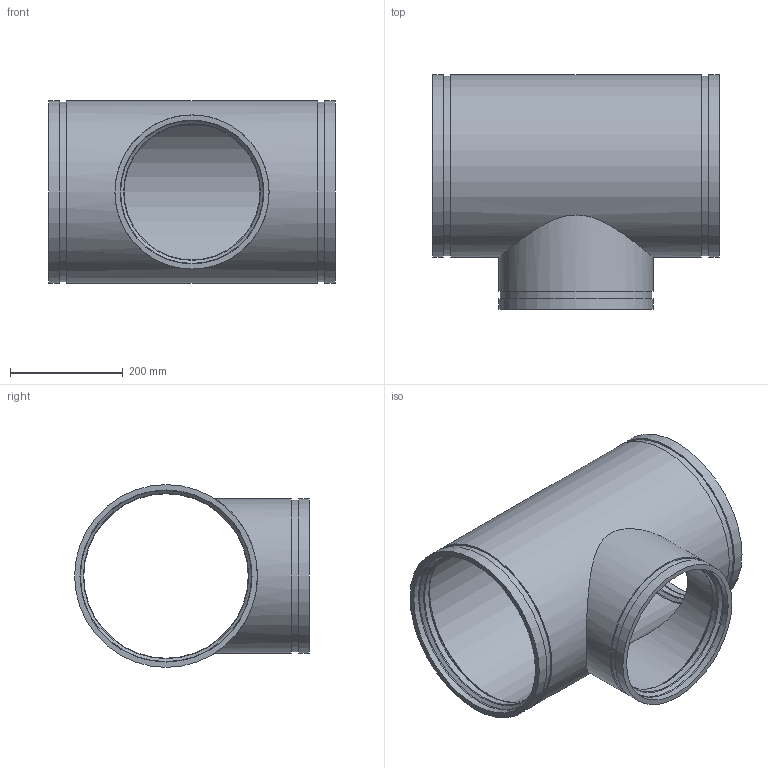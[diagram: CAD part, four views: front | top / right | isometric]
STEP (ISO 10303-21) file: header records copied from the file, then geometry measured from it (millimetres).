
FILE_DESCRIPTION(/* description */ ('VIC REDUCING TEE No 425H-SS','CAx-IF Rec.Pracs.---Representation and Presentation of Product Manufacturing Information (PMI)---4.0---2014-10-13'),/* implementation_level */ '2;1');
FILE_NAME(/* name */ 'C:\Users\kkamble\AppData\Roaming\Autodesk\ApplicationPlugins\Back Up\Victaulic_SS-OGS_Tee Reducing_Sched 40S_No 425H SS (OGS)\Victaulic_SS-OGS_Tee Reducing_Sched 40S_No 425H SS (OGS)_12.0x10.0 (300x250).stp',/* time_stamp */ '2020-08-27T17:20:41+06:00',/* author */ ('CORINNE GRAY'),/* organization */ ('Victaulic'),/* preprocessor_version */ 'ST-DEVELOPER v17.2',/* originating_system */ 'Autodesk Inventor 2019',/* authorisation */ '');
FILE_SCHEMA (('AP242_MANAGED_MODEL_BASED_3D_ENGINEERING_MIM_LF { 1 0 10303 442 1 1 4 }'));
Length unit declared in the file: inch
Products named in the file (1): 425H SS-12.0x10.0
Bounding box: 508 x 415.93 x 323.85 mm (x, y, z)
Volume: 5437428.9 mm3; surface area: 1148367.1 mm2
Topology: 1 solids, 1 shells, 43 faces, 134 edges, 100 vertices
Faces by surface type: cylinder 16, torus 12, plane 9, cone 6
Full cylindrical faces by diameter (mm): 240.741 x1, 254.508 x2, 268.275 x1, 273.05 x2, 291.313 x2, 304.8 x3, 318.287 x2, 323.85 x3
Entity records: 1935 total; most frequent: CARTESIAN_POINT 443, DIRECTION 352, ORIENTED_EDGE 268, AXIS2_PLACEMENT_3D 165, EDGE_CURVE 134, CIRCLE 108, VERTEX_POINT 100, EDGE_LOOP 54
